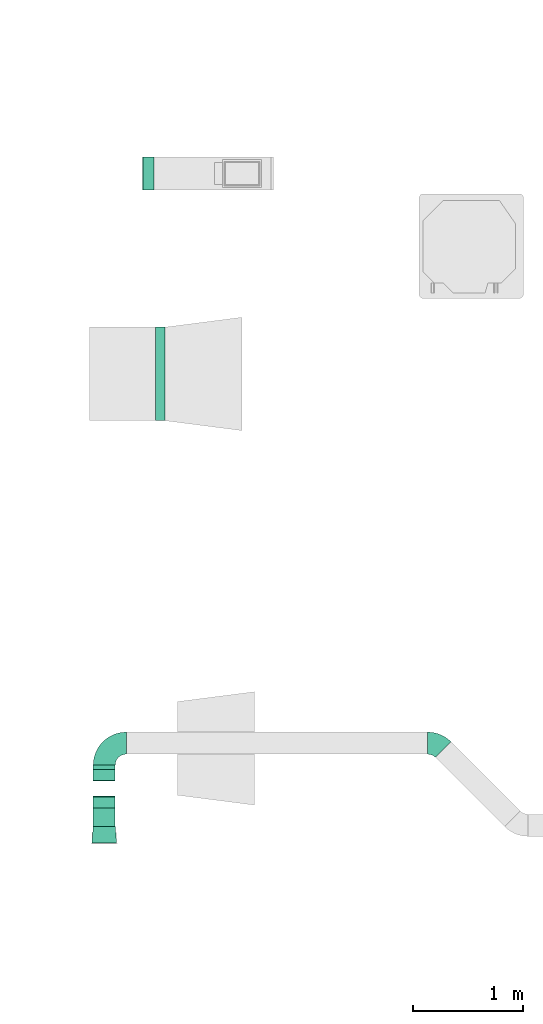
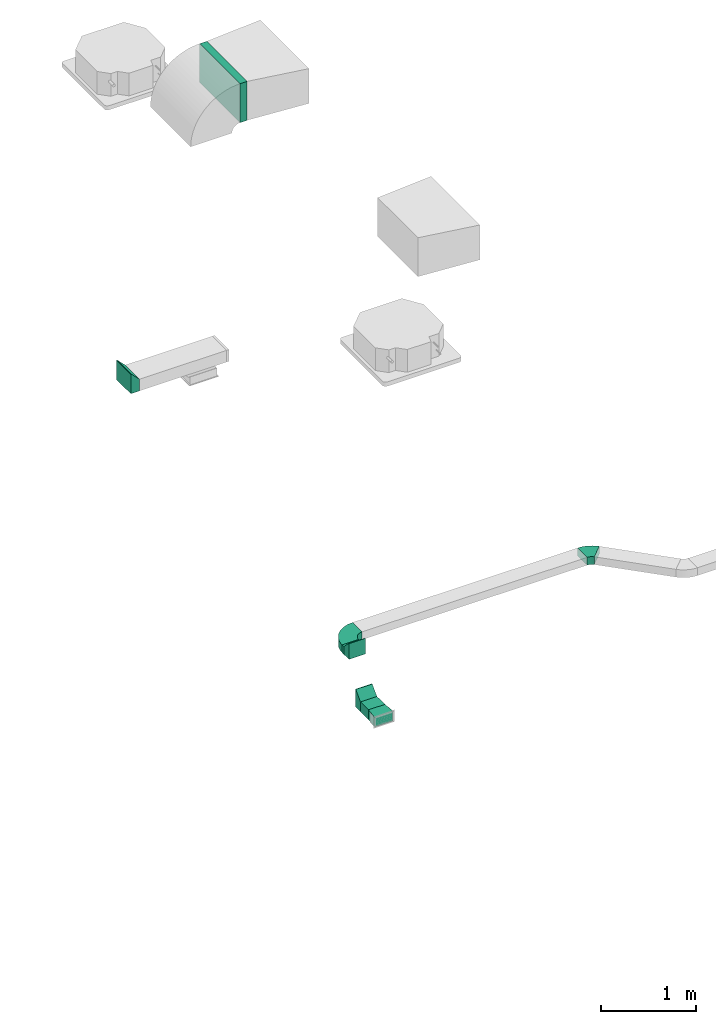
# One storey, part 5 of 15: 6 flow fittings, 3 flow segments.
"""IFC2X3 building model written with IfcOpenShell, lengths in millimetres."""

from ifc_helpers import new_model, entity, si_unit, converted_unit, derived_unit, direction, frame, frame_2d, origin, place, context, subcontext, project, spatial, polyline, circle_curve, parameter, trimmed, segment, composite_curve, rectangle, outline, extrude, source, transform, mapped, material, type_object, type_shapes, element, save


model = new_model("IFC2X3")

# Units and contexts
model_context = context("Model", 3, precision=0.01, world=origin(), true_north=direction((6.123233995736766e-17, 1.0)))
body_context = subcontext(model_context, "Body", "Model", "MODEL_VIEW")
ifc_project = project(units=[si_unit("LENGTHUNIT", "METRE", prefix="MILLI"), converted_unit("PLANEANGLEUNIT", "DEGREE", entity("IfcPlaneAngleMeasure", 0.017453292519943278), si_unit("PLANEANGLEUNIT", "RADIAN"), dimensions=[0, 0, 0, 0, 0, 0, 0]), si_unit("AREAUNIT", "SQUARE_METRE"), derived_unit("THERMALTRANSMITTANCEUNIT", [(si_unit("MASSUNIT", "GRAM", prefix="KILO"), 1), (si_unit("THERMODYNAMICTEMPERATUREUNIT", "KELVIN"), -1), (si_unit("TIMEUNIT", "SECOND"), -3)])], contexts=[model_context])

# Site, building, storey
site_placement = place(None, origin())
site = spatial("IfcSite", under=ifc_project, at=site_placement, Name="Default", CompositionType="ELEMENT")
building_placement = place(site_placement, origin())
building = spatial("IfcBuilding", under=site, at=building_placement, Name="Praça Pedro II, 1301 - Centro (Sul), Teresina - PI, 64001-100", CompositionType="ELEMENT")
storey_placement = place(building_placement, frame((0.0, 0.0, 3020.0)))
storey = spatial("IfcBuildingStorey", under=building, at=storey_placement, Name="1PAV", CompositionType="ELEMENT", Elevation=3020.0)

# Flow segments
duct_segment_type = type_object("IfcDuctSegmentType", Name="Duto retangular:Raios cotovelos / torneiras", PredefinedType="NOTDEFINED")
flow_segment_1_placement = place(storey_placement, origin())
element("IfcFlowSegment", 1, at=flow_segment_1_placement, inside=storey, type_object=duct_segment_type, Name="Duto retangular:Raios cotovelos / torneiras", ObjectType="Duto retangular:Raios cotovelos / torneiras", context=body_context, shape_type="SweptSolid", body=[
    extrude(rectangle(XDim=86.83118913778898, YDim=849.9999999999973, at=frame_2d((2.1671553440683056e-12, -8.668621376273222e-12), x_axis=(1.0, 0.0))), frame((34696.22931354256, -60803.40104951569, 7376.055882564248), z_axis=(0.0, 0.0, 1.0), x_axis=(-1.0, 0.0, 0.0)), (0.0, 0.0, 1.0), 499.999999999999),
])
flow_segment_2_placement = place(storey_placement, origin())
element("IfcFlowSegment", 2, at=flow_segment_2_placement, inside=storey, type_object=duct_segment_type, Name="Duto retangular:Raios cotovelos / torneiras", ObjectType="Duto retangular:Raios cotovelos / torneiras", context=body_context, shape_type="SweptSolid", body=[
    extrude(rectangle(XDim=37.707836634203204, YDim=200.00000000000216, at=frame_2d((0.0, -2.1671553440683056e-12), x_axis=(1.0, 0.0))), frame((34186.88553093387, -64374.2624894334, 2661.0050506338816), z_axis=(0.0, 0.0, 1.0), x_axis=(0.0, -1.0, 0.0)), (0.0, 0.0, 1.0), 100.0000000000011),
])
flow_segment_3_placement = place(storey_placement, origin())
element("IfcFlowSegment", 3, at=flow_segment_3_placement, inside=storey, type_object=duct_segment_type, Name="Duto retangular:Raios cotovelos / torneiras", ObjectType="Duto retangular:Raios cotovelos / torneiras", context=body_context, shape_type="SweptSolid", body=[
    extrude(rectangle(XDim=167.73113312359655, YDim=199.99999999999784, at=frame_2d((0.0, -4.334310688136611e-12), x_axis=(1.0, 0.0))), frame((34186.88553093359, -64826.98197431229, 2137.5000000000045), z_axis=(0.0, 0.0, 1.0), x_axis=(0.0, -1.0, 0.0)), (0.0, 0.0, 1.0), 124.99999999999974),
])

# Flow fittings
ifc_material = material(Name="<Unnamed>")
duct_fitting_type_1 = type_object("IfcDuctFittingType", Name="BTS vanes:1 Splitter Vanes", PredefinedType="NOTDEFINED", material=ifc_material)
shared_shape_1 = source(origin(), body_context, "Body", "SweptSolid", [
    extrude(outline(composite_curve([segment(polyline([(-129.28932188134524, -70.7106781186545), (70.71067811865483, -70.71067811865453)]), True, "CONTINUOUS"), segment(trimmed(circle_curve(frame_2d((170.7106781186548, -70.71067811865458), x_axis=(-0.7071067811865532, 0.7071067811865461)), 99.99999999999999), [parameter(0.0)], [parameter(44.99999999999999)], True, "PARAMETER"), False, "CONTINUOUS"), segment(polyline([(100.0, 0.0), (-41.42135623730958, 141.42135623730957)]), True, "CONTINUOUS"), segment(trimmed(circle_curve(frame_2d((170.7106781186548, -70.71067811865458), x_axis=(-0.7071067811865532, 0.7071067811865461)), 300.0), [parameter(0.0)], [parameter(44.99999999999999)], True, "PARAMETER"), True, "CONTINUOUS")], self_intersect=False)), frame((-12.132034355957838, 29.289321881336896, -50.0), z_axis=(0.0, 0.0, 1.0), x_axis=(-0.7071067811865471, 0.7071067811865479, 0.0)), (0.0, 0.0, 1.0), 100.0),
    extrude(outline(composite_curve([segment(polyline([(-35.763414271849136, -41.86816467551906), (1.078690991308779, -41.86816467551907)]), True, "CONTINUOUS"), segment(trimmed(circle_curve(frame_2d((101.07869099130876, -41.86816467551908), x_axis=(-0.707106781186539, 0.7071067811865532)), 99.99999999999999), [parameter(0.0)], [parameter(44.99999999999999)], True, "PARAMETER"), False, "CONTINUOUS"), segment(polyline([(30.36801287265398, 28.842513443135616), (4.3167104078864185, 54.89381590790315)]), True, "CONTINUOUS"), segment(trimmed(circle_curve(frame_2d((101.07869099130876, -41.86816467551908), x_axis=(-0.707106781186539, 0.7071067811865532)), 136.84210526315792), [parameter(0.0)], [parameter(44.99999999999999)], True, "PARAMETER"), True, "CONTINUOUS")], self_intersect=False)), frame((-40.97454779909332, 98.92130900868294, -50.0), z_axis=(0.0, 0.0, 1.0), x_axis=(-0.7071067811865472, 0.7071067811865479, 0.0)), (0.0, 0.0, 1.0), 100.0),
])
type_shapes(duct_fitting_type_1, [shared_shape_1])
flow_fitting_1_placement = place(storey_placement, frame((37206.08659263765, -64155.40857111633, 2711.0050506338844), z_axis=(0.0, 0.0, 1.0), x_axis=(-0.7071067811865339, 0.7071067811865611, 0.0)))
element("IfcFlowFitting", 4, at=flow_fitting_1_placement, inside=storey, type_object=duct_fitting_type_1, material=ifc_material, Name="BTS vanes:1 Splitter Vanes", ObjectType="BTS vanes:1 Splitter Vanes", context=body_context, shape_type="MappedRepresentation", body=[
    mapped(shared_shape_1, transform((0.0, 0.0, 0.0), scale=1.0)),
])
duct_fitting_type_2 = type_object("IfcDuctFittingType", Name="M_Rectangular Tap - Beveled:Standard", PredefinedType="NOTDEFINED", material=ifc_material)
shared_shape_2 = source(origin(), body_context, "Body", "SweptSolid", [
    extrude(outline(polyline([(-100.0, -62.4384000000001), (0.0, -62.4384000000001), (100.0, 37.561599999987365), (100.0, 43.65760000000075), (-100.0, 43.65760000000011), (-100.0, -62.4384000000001)])), frame((37.561600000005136, 50.0, -100.0), z_axis=(0.0, 0.0, 1.0), x_axis=(0.0, 1.0, 0.0)), (0.0, 0.0, 1.0), 199.99999999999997),
])
type_shapes(duct_fitting_type_2, [shared_shape_2])
flow_fitting_2_placement = place(storey_placement, frame((34186.88553093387, -64493.11640775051, 2711.005050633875), z_axis=(1.0, 0.0, 0.0), x_axis=(0.0, 1.0, 0.0)))
element("IfcFlowFitting", 5, at=flow_fitting_2_placement, inside=storey, type_object=duct_fitting_type_2, material=ifc_material, Name="M_Rectangular Tap - Beveled:Standard", ObjectType="M_Rectangular Tap - Beveled:Standard", context=body_context, shape_type="MappedRepresentation", body=[
    mapped(shared_shape_2, transform((0.0, 0.0, 0.0), scale=1.0)),
])
duct_fitting_type_3 = type_object("IfcDuctFittingType", Name="BTS vanes:1 Splitter Vanes", PredefinedType="NOTDEFINED", material=ifc_material)
shared_shape_3 = source(origin(), body_context, "Body", "SweptSolid", [
    extrude(outline(composite_curve([segment(polyline([(-200.0, -100.0), (0.0, -100.0)]), True, "CONTINUOUS"), segment(trimmed(circle_curve(frame_2d((100.0, -100.0), x_axis=(0.0, 1.0)), 99.99999999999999), [parameter(0.0)], [parameter(90.00000000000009)], True, "PARAMETER"), False, "CONTINUOUS"), segment(polyline([(100.0, 0.0), (100.0, 200.0)]), True, "CONTINUOUS"), segment(trimmed(circle_curve(frame_2d((100.0, -100.0), x_axis=(0.0, 1.0)), 300.0), [parameter(0.0)], [parameter(90.00000000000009)], True, "PARAMETER"), True, "CONTINUOUS")], self_intersect=False)), frame((-100.0, 100.0, -50.0), z_axis=(0.0, 0.0, 1.0), x_axis=(-1.0, 0.0, 0.0)), (0.0, 0.0, 1.0), 100.0),
    extrude(outline(composite_curve([segment(polyline([(-77.63157894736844, -59.21052631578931), (-40.789473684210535, -59.21052631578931)]), True, "CONTINUOUS"), segment(trimmed(circle_curve(frame_2d((59.21052631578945, -59.21052631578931), x_axis=(0.0, 1.0)), 99.99999999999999), [parameter(0.0)], [parameter(90.00000000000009)], True, "PARAMETER"), False, "CONTINUOUS"), segment(polyline([(59.21052631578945, 40.78947368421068), (59.21052631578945, 77.63157894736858)]), True, "CONTINUOUS"), segment(trimmed(circle_curve(frame_2d((59.21052631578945, -59.21052631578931), x_axis=(0.0, 1.0)), 136.84210526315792), [parameter(0.0)], [parameter(90.00000000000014)], True, "PARAMETER"), True, "CONTINUOUS")], self_intersect=False)), frame((-140.78947368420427, 140.78947368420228, -50.0), z_axis=(0.0, 0.0, 1.0), x_axis=(-1.0, 0.0, 0.0)), (0.0, 0.0, 1.0), 100.0),
])
type_shapes(duct_fitting_type_3, [shared_shape_3])
flow_fitting_3_placement = place(storey_placement, frame((34186.88553093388, -64155.40857111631, 2711.0050506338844), z_axis=(0.0, 0.0, 1.0), x_axis=(-1.0, 0.0, 0.0)))
element("IfcFlowFitting", 6, at=flow_fitting_3_placement, inside=storey, type_object=duct_fitting_type_3, material=ifc_material, Name="BTS vanes:1 Splitter Vanes", ObjectType="BTS vanes:1 Splitter Vanes", context=body_context, shape_type="MappedRepresentation", body=[
    mapped(shared_shape_3, transform((0.0, 0.0, 0.0), scale=1.0)),
])
duct_fitting_type_4 = type_object("IfcDuctFittingType", Name="M_Rectangular Tap - Beveled:Standard", PredefinedType="NOTDEFINED", material=ifc_material)
shared_shape_4 = source(origin(), body_context, "Body", "SweptSolid", [
    extrude(outline(polyline([(-115.0, -62.4384), (10.0, -62.4384), (110.0, 37.56159999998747), (110.0, 43.65760000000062), (-115.0, 43.657599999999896), (-115.0, -62.4384)])), frame((37.561600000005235, 52.50000000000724, -100.0), z_axis=(0.0, 0.0, 1.0), x_axis=(0.0, 1.0, 0.0)), (0.0, 0.0, 1.0), 199.99999999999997),
])
type_shapes(duct_fitting_type_4, [shared_shape_4])
flow_fitting_4_placement = place(storey_placement, frame((34186.88553093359, -64643.11640775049, 2200.0), z_axis=(-1.0, 0.0, 0.0), x_axis=(0.0, -1.0, 0.0)))
element("IfcFlowFitting", 7, at=flow_fitting_4_placement, inside=storey, type_object=duct_fitting_type_4, material=ifc_material, Name="M_Rectangular Tap - Beveled:Standard", ObjectType="M_Rectangular Tap - Beveled:Standard", context=body_context, shape_type="MappedRepresentation", body=[
    mapped(shared_shape_4, transform((0.0, 0.0, 0.0), scale=1.0)),
])
duct_fitting_type_5 = type_object("IfcDuctFittingType", Name="M_Rectangular Transition - L:150 mm (L)", PredefinedType="NOTDEFINED", material=ifc_material)
shared_shape_5 = source(origin(), body_context, "Body", "SweptSolid", [
    extrude(outline(polyline([(-66.43638388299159, -105.88298681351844), (84.08354835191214, -105.88298681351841), (65.3983153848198, 118.33980879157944), (-83.04547985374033, 93.42616483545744), (-66.43638388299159, -105.88298681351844)])), frame((75.0, 0.0, -62.500000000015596), z_axis=(0.0, 0.0, 1.0), x_axis=(0.9965457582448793, -0.08304547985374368, 0.0)), (0.0, 0.0, 1.0), 125.00000000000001),
])
type_shapes(duct_fitting_type_5, [shared_shape_5])
flow_fitting_5_placement = place(storey_placement, frame((34186.88553093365, -64910.84754087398, 2200.0), z_axis=(0.0, 0.0, 1.0), x_axis=(0.0, -1.0, 0.0)))
element("IfcFlowFitting", 8, at=flow_fitting_5_placement, inside=storey, type_object=duct_fitting_type_5, material=ifc_material, Name="M_Rectangular Transition - L:150 mm (L)", ObjectType="M_Rectangular Transition - L:150 mm (L)", context=body_context, shape_type="MappedRepresentation", body=[
    mapped(shared_shape_5, transform((0.0, 0.0, 0.0), scale=1.0)),
])
duct_fitting_type_6 = type_object("IfcDuctFittingType", Name="M_Rectangular Tap - Beveled:Standard", PredefinedType="NOTDEFINED", material=ifc_material)
shared_shape_6 = source(origin(), body_context, "Body", "SweptSolid", [
    extrude(outline(polyline([(-130.0, -62.438400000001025), (20.0, -62.438400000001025), (120.0, 37.56159999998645), (120.0, 43.657600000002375), (-130.0, 43.65760000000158), (-130.0, -62.438400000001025)])), frame((37.56160000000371, 55.0, -150.0), z_axis=(0.0, 0.0, 1.0), x_axis=(0.0, 1.0, 0.0)), (0.0, 0.0, 1.0), 300.0),
])
type_shapes(duct_fitting_type_6, [shared_shape_6])
flow_fitting_6_placement = place(storey_placement, frame((34539.07066891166, -58985.15114948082, 2740.0), z_axis=(0.0, -1.0, 0.0), x_axis=(1.0, 0.0, 0.0)))
element("IfcFlowFitting", 9, at=flow_fitting_6_placement, inside=storey, type_object=duct_fitting_type_6, material=ifc_material, Name="M_Rectangular Tap - Beveled:Standard", ObjectType="M_Rectangular Tap - Beveled:Standard", context=body_context, shape_type="MappedRepresentation", body=[
    mapped(shared_shape_6, transform((0.0, 0.0, 0.0), scale=1.0)),
])

save(model, "model.ifc")
